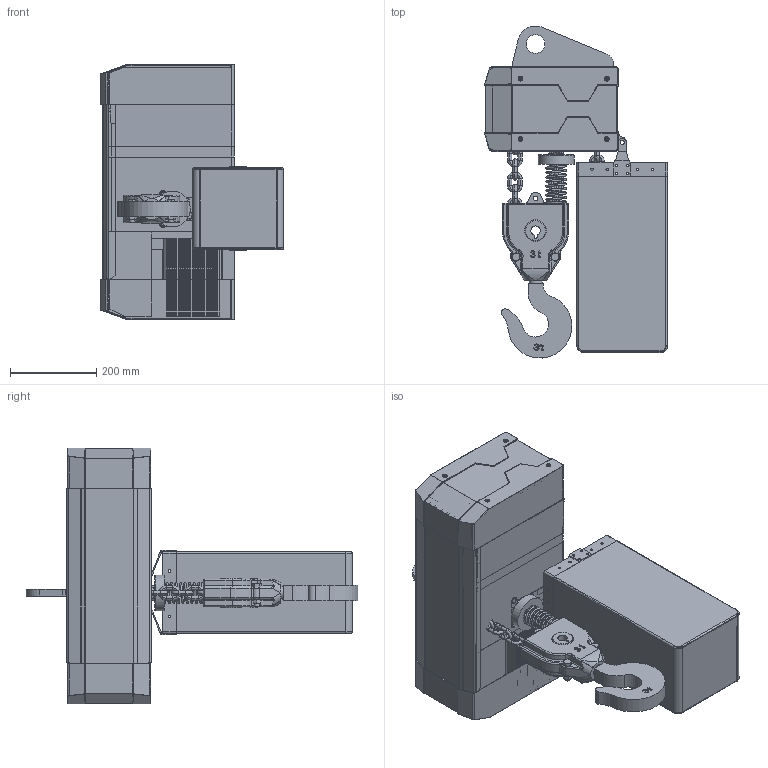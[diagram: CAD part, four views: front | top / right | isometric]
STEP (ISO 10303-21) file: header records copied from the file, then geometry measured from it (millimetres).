
FILE_DESCRIPTION(/* description */ (''),/* implementation_level */ '2;1');
FILE_NAME(/* name */ 'YJ 03-02 固定式.stp',/* time_stamp */ '2026-06-12T13:26:38+08:00',/* author */ (''),/* organization */ (''),/* preprocessor_version */ 'ST-DEVELOPER v16.7',/* originating_system */ 'SIEMENS PLM Software NX 12.0',/* authorisation */ '');
FILE_SCHEMA (('AP203_CONFIGURATION_CONTROLLED_3D_DESIGN_OF_MECHANICAL_PARTS_AND_ASSEMBLIES_MIM_LF { 1 0 10303 403 2 1 2}'));
Products named in the file (1): AFE04DC1Dhxel
Bounding box: 424.21 x 769.31 x 593 mm (x, y, z)
Volume: 33614954.6 mm3; surface area: 2705486.6 mm2
Topology: 23 solids, 33 shells, 3087 faces, 8152 edges, 4933 vertices
Faces by surface type: cylinder 1172, plane 1116, torus 411, extrusion 129, cone 98, bspline 90, sphere 71
Full cylindrical faces by diameter (mm): 2 x4, 2.4 x4, 3.4 x8, 5.5 x32, 5.795 x8, 6 x1, 6.3 x4, 6.4 x2, 6.6 x8, 7.46 x2, 9 x2, 10 x8, 10.3 x13, 10.841 x1, 11.701 x4, 12.4 x2, 29.7 x1, 43.5 x1, 47 x2, 83 x2
Entity records: 108152 total; most frequent: CARTESIAN_POINT 33439, ORIENTED_EDGE 15636, DIRECTION 15168, EDGE_CURVE 7818, AXIS2_PLACEMENT_3D 5407, VERTEX_POINT 4847, VECTOR 4354, LINE 4225
